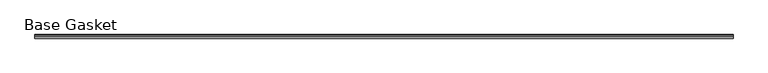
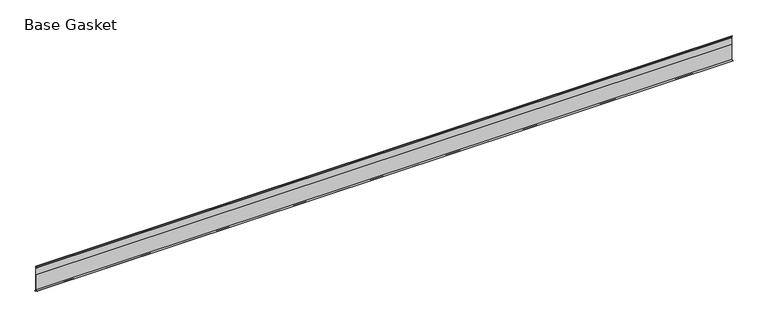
"""IFC4 building model written with IfcOpenShell, lengths in millimetres: furniture geometry, Gasket-Teknion-FHGB-AI_Healthcare-R2021 : Base Gasket."""

from ifc_helpers import new_model, si_unit, frame, origin, place, context, project, spatial, polyline, outline, extrude, source, transform, mapped, element, save


def base_gasket_be6e9de9(model_context):
    return source(origin(), model_context, "Body", "SweptSolid", [
        extrude(outline(polyline([(3.7283812, 98.4568417), (3.7283812, 4.3498477), (7.4222115, 0.6560174), (7.8482342, 0.0), (6.8281054, 0.3520979), (2.2043812, 4.3498477), (2.1334222, 6.3818476), (-6.2405171, 6.3818476), (-6.2405171, 7.9398773), (2.2043812, 7.9398773), (2.2043812, 71.4693447), (1.4106313, 71.4693447), (1.4106313, 96.8693477), (2.2043812, 96.8693477), (2.2043812, 98.4568417), (0.6755308, 104.4162708), (0.6755308, 105.2002997), (1.1891543, 104.587663), (3.7283812, 98.4568417)])), frame((-1527.8982117, 0.0, 0.0), z_axis=(1.0, 0.0, 0.0), x_axis=(0.0, 1.0, 0.0)), (0.0, 0.0, 1.0), 2711.5277244),
    ])


if __name__ == "__main__":
    model = new_model("IFC4")
    model_context = context("Model", 3, world=origin())
    ifc_project = project(units=[si_unit("LENGTHUNIT", "METRE", prefix="MILLI")], contexts=[model_context])
    site = spatial("IfcSite", under=ifc_project)
    building = spatial("IfcBuilding", under=site)
    placement = place(None, origin())
    base_gasket_shape = base_gasket_be6e9de9(model_context)
    element("IfcFurniture", 1, ObjectType="Gasket-Teknion-FHGB-AI_Healthcare-R2021 : Base Gasket", at=placement, inside=building, context=model_context, shape_type="MappedRepresentation", body=[
        mapped(base_gasket_shape, transform((0.0, 0.0, 0.0), x_axis=(1.0, 0.0, 0.0), y_axis=(0.0, 1.0, 0.0), z_axis=(0.0, 0.0, 1.0))),
    ])
    save(model, "model.ifc")
